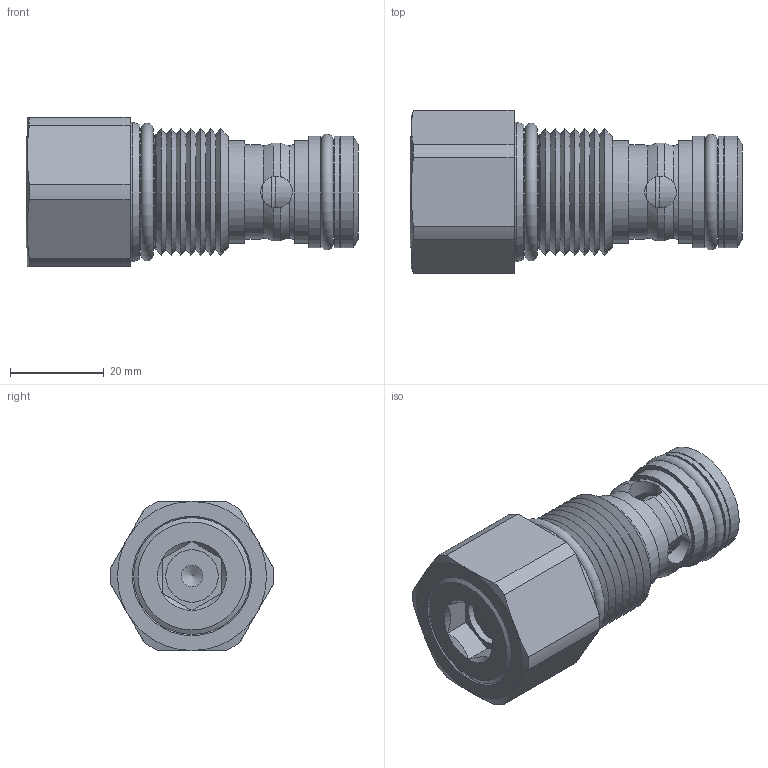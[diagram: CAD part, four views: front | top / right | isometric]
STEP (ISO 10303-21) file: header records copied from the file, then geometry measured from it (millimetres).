
FILE_DESCRIPTION(/* description */ ('HTT-CVA-00-0010'),/* implementation_level */ '2;1');
FILE_NAME(/* name */ 'P:\EARS\EAR16xx\EAR1683 - catalog pages changes\Group1_Distribution 11_22_22\RTeck Agency_Tom\_step files\HTTCVA00.stp',/* time_stamp */ '2023-01-03T09:08:43-06:00',/* author */ ('Michael'),/* organization */ (''),/* preprocessor_version */ 'ST-DEVELOPER v17.2',/* originating_system */ 'Autodesk Inventor 2019',/* authorisation */ '');
FILE_SCHEMA (('AUTOMOTIVE_DESIGN { 1 0 10303 214 3 1 1 }'));
Length unit declared in the file: inch
Products named in the file (1): 88410000
Bounding box: 70.69 x 34.91 x 31.75 mm (x, y, z)
Volume: 37586.9 mm3; surface area: 12469 mm2
Topology: 4 solids, 4 shells, 131 faces, 301 edges, 188 vertices
Faces by surface type: cone 52, cylinder 37, plane 36, torus 6
Full cylindrical faces by diameter (mm): 1.6 x1, 3.175 x1, 6.782 x4, 6.909 x1, 10.312 x1, 11.163 x1, 11.608 x1, 13.245 x1, 14.224 x1, 14.261 x2, 14.296 x1, 14.859 x1, 19.304 x1, 19.355 x1, 20.015 x2, 21.844 x2, 23.724 x3, 24.003 x1, 29.718 x1
Entity records: 4271 total; most frequent: CARTESIAN_POINT 1094, DIRECTION 645, ORIENTED_EDGE 598, EDGE_CURVE 299, AXIS2_PLACEMENT_3D 280, VERTEX_POINT 188, EDGE_LOOP 158, CIRCLE 148
